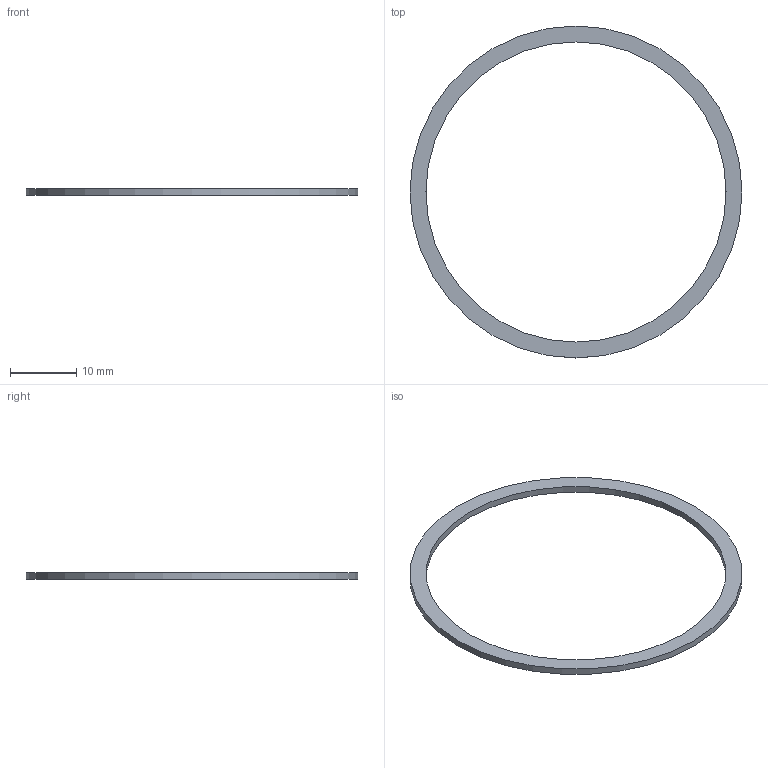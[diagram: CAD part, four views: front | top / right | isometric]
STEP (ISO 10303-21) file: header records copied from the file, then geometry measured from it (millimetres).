
FILE_DESCRIPTION(('Open CASCADE Model'),'2;1');
FILE_NAME('Open CASCADE Shape Model','2026-10-04T02:31:38',('Author'),( 'Open CASCADE'),'Open CASCADE STEP processor 8.0','Open CASCADE 8.0' ,'Unknown');
FILE_SCHEMA(('AUTOMOTIVE_DESIGN { 1 0 10303 214 1 1 1 1 }'));
Length unit declared in the file: millimetre
Products named in the file (1): Open CASCADE STEP translator 8.0 130
Bounding box: 50 x 50 x 1 mm (x, y, z)
Volume: 358.9 mm3; surface area: 1016.9 mm2
Topology: 1 solids, 1 shells, 4 faces, 6 edges, 4 vertices
Faces by surface type: cylinder 2, plane 2
Full cylindrical faces by diameter (mm): 45.2 x1, 50 x1
Entity records: 186 total; most frequent: DIRECTION 32, CARTESIAN_POINT 27, ORIENTED_EDGE 12, PCURVE 12, DEFINITIONAL_REPRESENTATION 12, LINE 10, VECTOR 10, AXIS2_PLACEMENT_3D 9
